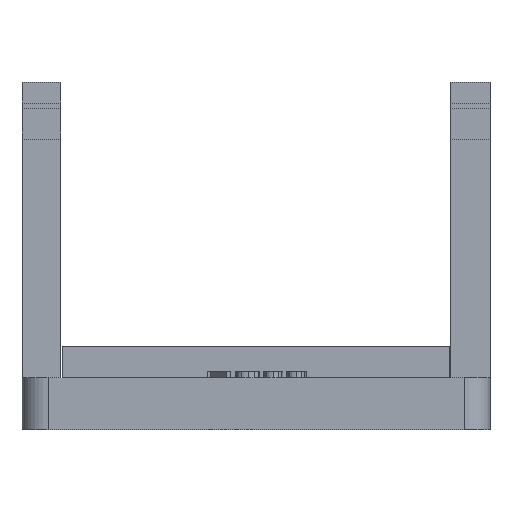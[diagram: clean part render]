
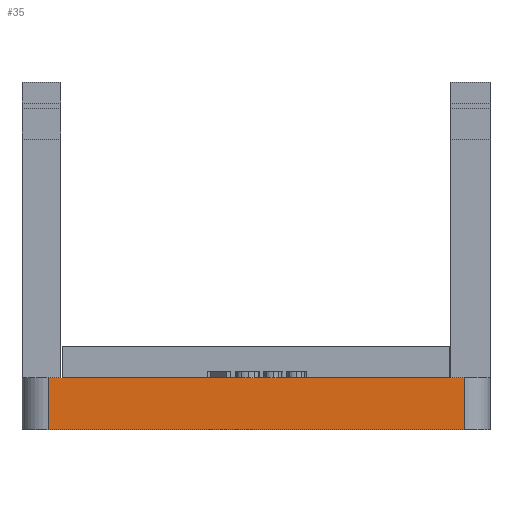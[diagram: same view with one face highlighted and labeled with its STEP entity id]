
A CAD part, front view. The second image highlights one B-rep face of the part: STEP entity #35.
In plain terms, the highlighted planar face has unit normal (0, -1, 0).
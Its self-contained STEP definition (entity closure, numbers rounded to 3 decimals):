
#35 = ADVANCED_FACE('',(#36),#50,.F.);
#36 = FACE_BOUND('',#37,.F.);
#37 = EDGE_LOOP('',(#38,#73,#101,#129));
#38 = ORIENTED_EDGE('',*,*,#39,.F.);
#39 = EDGE_CURVE('',#40,#42,#44,.T.);
#40 = VERTEX_POINT('',#41);
#41 = CARTESIAN_POINT('',(-16.,-20.5,0.));
#42 = VERTEX_POINT('',#43);
#43 = CARTESIAN_POINT('',(16.,-20.5,0.));
#44 = SURFACE_CURVE('',#45,(#49,#61),.PCURVE_S1.);
#45 = LINE('',#46,#47);
#46 = CARTESIAN_POINT('',(-18.,-20.5,0.));
#47 = VECTOR('',#48,1.);
#48 = DIRECTION('',(1.,0.,0.));
#49 = PCURVE('',#50,#55);
#50 = PLANE('',#51);
#51 = AXIS2_PLACEMENT_3D('',#52,#53,#54);
#52 = CARTESIAN_POINT('',(-18.,-20.5,0.));
#53 = DIRECTION('',(0.,1.,0.));
#54 = DIRECTION('',(1.,0.,0.));
#55 = DEFINITIONAL_REPRESENTATION('',(#56),#60);
#56 = LINE('',#57,#58);
#57 = CARTESIAN_POINT('',(0.,0.));
#58 = VECTOR('',#59,1.);
#59 = DIRECTION('',(1.,0.));
#60 = ( GEOMETRIC_REPRESENTATION_CONTEXT(2) 
PARAMETRIC_REPRESENTATION_CONTEXT() REPRESENTATION_CONTEXT('2D SPACE',''
  ) );
#61 = PCURVE('',#62,#67);
#62 = PLANE('',#63);
#63 = AXIS2_PLACEMENT_3D('',#64,#65,#66);
#64 = CARTESIAN_POINT('',(0.,0.,0.));
#65 = DIRECTION('',(0.,0.,1.));
#66 = DIRECTION('',(1.,0.,-0.));
#67 = DEFINITIONAL_REPRESENTATION('',(#68),#72);
#68 = LINE('',#69,#70);
#69 = CARTESIAN_POINT('',(-18.,-20.5));
#70 = VECTOR('',#71,1.);
#71 = DIRECTION('',(1.,0.));
#72 = ( GEOMETRIC_REPRESENTATION_CONTEXT(2) 
PARAMETRIC_REPRESENTATION_CONTEXT() REPRESENTATION_CONTEXT('2D SPACE',''
  ) );
#73 = ORIENTED_EDGE('',*,*,#74,.T.);
#74 = EDGE_CURVE('',#40,#75,#77,.T.);
#75 = VERTEX_POINT('',#76);
#76 = CARTESIAN_POINT('',(-16.,-20.5,4.));
#77 = SURFACE_CURVE('',#78,(#82,#89),.PCURVE_S1.);
#78 = LINE('',#79,#80);
#79 = CARTESIAN_POINT('',(-16.,-20.5,0.));
#80 = VECTOR('',#81,1.);
#81 = DIRECTION('',(0.,0.,1.));
#82 = PCURVE('',#50,#83);
#83 = DEFINITIONAL_REPRESENTATION('',(#84),#88);
#84 = LINE('',#85,#86);
#85 = CARTESIAN_POINT('',(2.,0.));
#86 = VECTOR('',#87,1.);
#87 = DIRECTION('',(0.,-1.));
#88 = ( GEOMETRIC_REPRESENTATION_CONTEXT(2) 
PARAMETRIC_REPRESENTATION_CONTEXT() REPRESENTATION_CONTEXT('2D SPACE',''
  ) );
#89 = PCURVE('',#90,#95);
#90 = CYLINDRICAL_SURFACE('',#91,2.);
#91 = AXIS2_PLACEMENT_3D('',#92,#93,#94);
#92 = CARTESIAN_POINT('',(-16.,-18.5,0.));
#93 = DIRECTION('',(0.,0.,1.));
#94 = DIRECTION('',(0.,-1.,0.));
#95 = DEFINITIONAL_REPRESENTATION('',(#96),#100);
#96 = LINE('',#97,#98);
#97 = CARTESIAN_POINT('',(-0.,0.));
#98 = VECTOR('',#99,1.);
#99 = DIRECTION('',(-0.,1.));
#100 = ( GEOMETRIC_REPRESENTATION_CONTEXT(2) 
PARAMETRIC_REPRESENTATION_CONTEXT() REPRESENTATION_CONTEXT('2D SPACE',''
  ) );
#101 = ORIENTED_EDGE('',*,*,#102,.T.);
#102 = EDGE_CURVE('',#75,#103,#105,.T.);
#103 = VERTEX_POINT('',#104);
#104 = CARTESIAN_POINT('',(16.,-20.5,4.));
#105 = SURFACE_CURVE('',#106,(#110,#117),.PCURVE_S1.);
#106 = LINE('',#107,#108);
#107 = CARTESIAN_POINT('',(-18.,-20.5,4.));
#108 = VECTOR('',#109,1.);
#109 = DIRECTION('',(1.,0.,0.));
#110 = PCURVE('',#50,#111);
#111 = DEFINITIONAL_REPRESENTATION('',(#112),#116);
#112 = LINE('',#113,#114);
#113 = CARTESIAN_POINT('',(0.,-4.));
#114 = VECTOR('',#115,1.);
#115 = DIRECTION('',(1.,0.));
#116 = ( GEOMETRIC_REPRESENTATION_CONTEXT(2) 
PARAMETRIC_REPRESENTATION_CONTEXT() REPRESENTATION_CONTEXT('2D SPACE',''
  ) );
#117 = PCURVE('',#118,#123);
#118 = PLANE('',#119);
#119 = AXIS2_PLACEMENT_3D('',#120,#121,#122);
#120 = CARTESIAN_POINT('',(0.,0.,4.));
#121 = DIRECTION('',(0.,0.,1.));
#122 = DIRECTION('',(1.,0.,-0.));
#123 = DEFINITIONAL_REPRESENTATION('',(#124),#128);
#124 = LINE('',#125,#126);
#125 = CARTESIAN_POINT('',(-18.,-20.5));
#126 = VECTOR('',#127,1.);
#127 = DIRECTION('',(1.,0.));
#128 = ( GEOMETRIC_REPRESENTATION_CONTEXT(2) 
PARAMETRIC_REPRESENTATION_CONTEXT() REPRESENTATION_CONTEXT('2D SPACE',''
  ) );
#129 = ORIENTED_EDGE('',*,*,#130,.F.);
#130 = EDGE_CURVE('',#42,#103,#131,.T.);
#131 = SURFACE_CURVE('',#132,(#136,#143),.PCURVE_S1.);
#132 = LINE('',#133,#134);
#133 = CARTESIAN_POINT('',(16.,-20.5,0.));
#134 = VECTOR('',#135,1.);
#135 = DIRECTION('',(0.,0.,1.));
#136 = PCURVE('',#50,#137);
#137 = DEFINITIONAL_REPRESENTATION('',(#138),#142);
#138 = LINE('',#139,#140);
#139 = CARTESIAN_POINT('',(34.,0.));
#140 = VECTOR('',#141,1.);
#141 = DIRECTION('',(0.,-1.));
#142 = ( GEOMETRIC_REPRESENTATION_CONTEXT(2) 
PARAMETRIC_REPRESENTATION_CONTEXT() REPRESENTATION_CONTEXT('2D SPACE',''
  ) );
#143 = PCURVE('',#144,#149);
#144 = CYLINDRICAL_SURFACE('',#145,2.);
#145 = AXIS2_PLACEMENT_3D('',#146,#147,#148);
#146 = CARTESIAN_POINT('',(16.,-18.5,0.));
#147 = DIRECTION('',(0.,0.,1.));
#148 = DIRECTION('',(0.,-1.,0.));
#149 = DEFINITIONAL_REPRESENTATION('',(#150),#154);
#150 = LINE('',#151,#152);
#151 = CARTESIAN_POINT('',(0.,0.));
#152 = VECTOR('',#153,1.);
#153 = DIRECTION('',(0.,1.));
#154 = ( GEOMETRIC_REPRESENTATION_CONTEXT(2) 
PARAMETRIC_REPRESENTATION_CONTEXT() REPRESENTATION_CONTEXT('2D SPACE',''
  ) );
